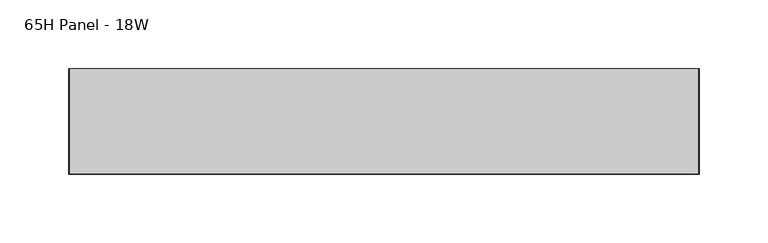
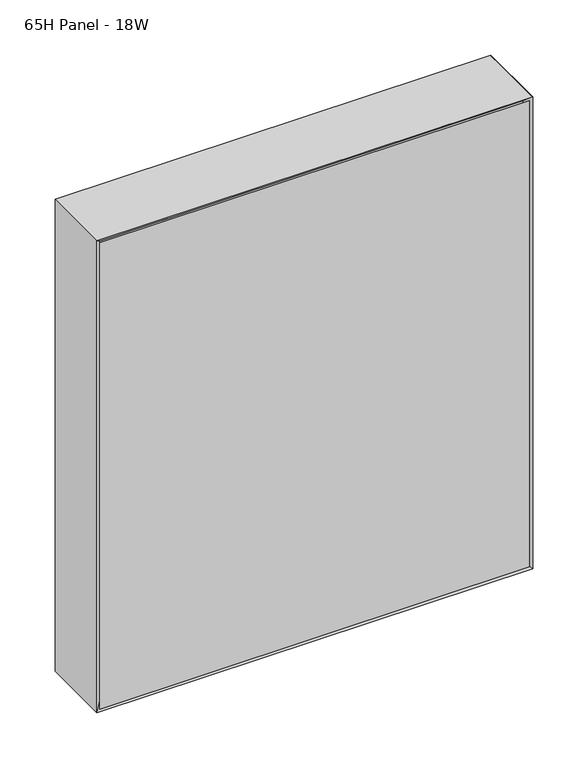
"""IFC4 building model written with IfcOpenShell, lengths in millimetres: furniture geometry, Steelcase - Montage - Frame - 20H - Enhanced Standard - Single Stack-On : 65H Panel - 18W."""

from ifc_helpers import new_model, si_unit, frame, origin, place, context, project, spatial, polyline, outline, extrude, faceted_brep, source, transform, mapped, element, save


def furniture_65h_panel_18w_08090337(model_context):
    return source(origin(), model_context, "Body", "SolidModel", [
        faceted_brep([(447.6750027, 31.7500194, 2174.8749516), (9.5250028, 31.7500194, 2174.8749516), (9.5250028, 31.7500194, 1670.05), (447.6750027, 31.7500194, 1670.05), (454.025, 38.1000194, 2181.2249516), (454.025, 38.1000194, 1663.7), (3.175, 38.1000194, 1663.7), (3.175, 38.1000194, 2181.2249516)], [[[0, 1, 2, 3]], [[4, 5, 6, 7]], [[4, 0, 3, 5]], [[5, 3, 2, 6]], [[6, 2, 1, 7]], [[7, 1, 0, 4]]]),
        faceted_brep([(447.6750027, -31.7500194, 2174.8749516), (447.6750027, -31.7500194, 1670.05), (9.5250028, -31.7500194, 1670.05), (9.5250028, -31.7500194, 2174.8749516), (454.025, -38.1000194, 2181.2249516), (3.175, -38.1000194, 2181.2249516), (3.175, -38.1000194, 1663.7), (454.025, -38.1000194, 1663.7)], [[[0, 1, 2, 3]], [[4, 5, 6, 7]], [[4, 7, 1, 0]], [[7, 6, 2, 1]], [[6, 5, 3, 2]], [[5, 4, 0, 3]]]),
        faceted_brep([(457.2, -38.1000015, 1660.525), (457.2, 38.1000015, 1660.525), (457.2, 38.1000015, 2184.3999516), (457.2, -38.1000106, 2184.3999515), (0.0, 38.1000015, 1660.525), (0.0, -38.1000015, 1660.525), (0.0, -38.1000015, 2184.3999516), (0.0, 38.1000015, 2184.3999516), (6.3500484, 31.749953, 1666.8750484), (450.8499879, 31.749953, 1666.8750484), (6.35, -31.749953, 1666.8750484), (450.8499879, -31.749953, 1666.8750484), (6.3500165, 31.749985, 2178.049935), (6.3500006, -31.7500009, 2178.0499031), (450.8499879, -31.7499979, 2178.0499031), (450.8499879, 31.7499889, 2178.0499394)], [[[0, 1, 2, 3]], [[4, 5, 6, 7]], [[1, 0, 5, 4]], [[1, 4, 8, 9]], [[9, 8, 10, 11]], [[5, 0, 11, 10]], [[4, 7, 12, 8]], [[6, 5, 10, 13]], [[10, 8, 12, 13]], [[9, 11, 14, 15]], [[0, 3, 14, 11]], [[2, 1, 9, 15]], [[3, 2, 15, 14]], [[7, 6, 13, 12]]]),
        faceted_brep([(457.2, -38.1000015, 2184.3999516), (0.0, -38.1000015, 2184.3999516), (6.3500484, -31.749953, 2178.0499031), (450.8499516, -31.749953, 2178.0499031), (6.3500484, 31.749953, 2178.0499031), (450.8499516, 31.749953, 2178.0499031), (0.0, 38.1000015, 2184.3999516), (457.2, 38.1000015, 2184.3999516)], [[[0, 1, 2, 3]], [[3, 2, 4, 5]], [[6, 7, 5, 4]], [[1, 0, 7, 6]], [[2, 1, 6, 4]], [[0, 3, 5, 7]]]),
        extrude(outline(polyline([(450.8499879, 31.7500016), (450.8499879, -31.7499985), (6.35, -31.7499985), (6.35, 31.7500016), (450.8499879, 31.7500016)])), frame((0.0, 0.0, 1666.8702145), z_axis=(0.0, 0.0, 1.0), x_axis=(1.0, 0.0, 0.0)), (0.0, 0.0, 1.0), 511.1796886),
    ])


if __name__ == "__main__":
    model = new_model("IFC4")
    model_context = context("Model", 3, world=origin())
    ifc_project = project(units=[si_unit("LENGTHUNIT", "METRE", prefix="MILLI")], contexts=[model_context])
    site = spatial("IfcSite", under=ifc_project)
    building = spatial("IfcBuilding", under=site)
    placement = place(None, origin())
    furniture_65h_panel_18w_shape = furniture_65h_panel_18w_08090337(model_context)
    element("IfcFurniture", 1, ObjectType="Steelcase - Montage - Frame - 20H - Enhanced Standard - Single Stack-On : 65H Panel - 18W", at=placement, inside=building, context=model_context, shape_type="MappedRepresentation", body=[
        mapped(furniture_65h_panel_18w_shape, transform((0.0, 0.0, 0.0), x_axis=(1.0, 0.0, 0.0), y_axis=(0.0, 1.0, 0.0), z_axis=(0.0, 0.0, 1.0))),
    ])
    save(model, "model.ifc")
